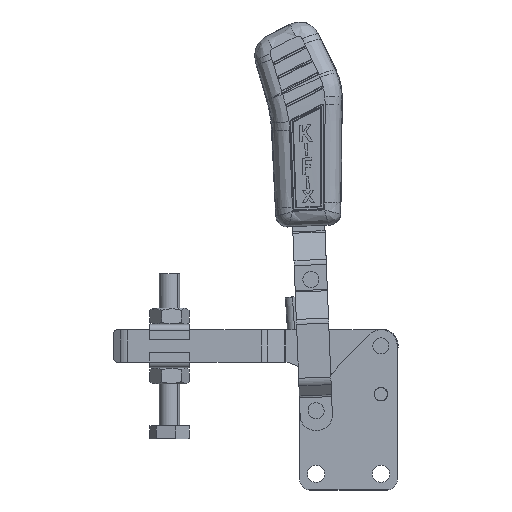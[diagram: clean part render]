
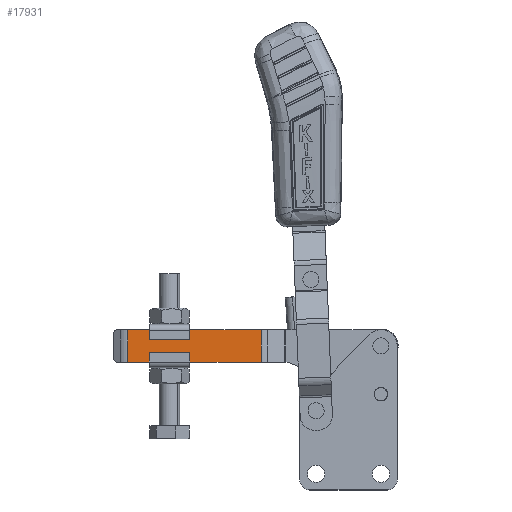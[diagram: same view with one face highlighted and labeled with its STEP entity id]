
A CAD part, top view. The second image highlights one B-rep face of the part: STEP entity #17931.
In plain terms, the highlighted planar face has unit normal (0, 0, 1) as drawn and (1, 0, 0) by its records, which use the part's own axes.
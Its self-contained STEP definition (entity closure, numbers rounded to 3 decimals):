
#469 = CARTESIAN_POINT ( 'NONE',  ( 6.906, 70.193, 8. ) ) ;
#1363 = CARTESIAN_POINT ( 'NONE',  ( 6.906, 70.7, 8. ) ) ;
#1669 = VECTOR ( 'NONE', #10488, 1000. ) ;
#3262 = ORIENTED_EDGE ( 'NONE', *, *, #16519, .T. ) ;
#3664 = VERTEX_POINT ( 'NONE', #12201 ) ;
#3948 = VERTEX_POINT ( 'NONE', #25110 ) ;
#5905 = DIRECTION ( 'NONE',  ( 0., -1., 0. ) ) ;
#6041 = LINE ( 'NONE', #20010, #15976 ) ;
#6409 = AXIS2_PLACEMENT_3D ( 'NONE', #1363, #19248, #7343 ) ;
#7208 = EDGE_CURVE ( 'NONE', #12737, #3664, #8165, .T. ) ;
#7231 = EDGE_CURVE ( 'NONE', #20572, #12737, #18101, .T. ) ;
#7343 = DIRECTION ( 'NONE',  ( 0., 1., 0. ) ) ;
#8165 = LINE ( 'NONE', #11795, #23396 ) ;
#8465 = CARTESIAN_POINT ( 'NONE',  ( 6.906, 4.423, 8. ) ) ;
#9739 = EDGE_LOOP ( 'NONE', ( #20441, #19791, #24343, #3262 ) ) ;
#9877 = DIRECTION ( 'NONE',  ( 0., 0., -1. ) ) ;
#10488 = DIRECTION ( 'NONE',  ( 0., 0., -1. ) ) ;
#11795 = CARTESIAN_POINT ( 'NONE',  ( 6.906, 70.7, -8. ) ) ;
#12201 = CARTESIAN_POINT ( 'NONE',  ( 6.906, 4.423, -8. ) ) ;
#12737 = VERTEX_POINT ( 'NONE', #21734 ) ;
#15520 = EDGE_CURVE ( 'NONE', #20572, #3948, #6041, .T. ) ;
#15976 = VECTOR ( 'NONE', #5905, 1000. ) ;
#16519 = EDGE_CURVE ( 'NONE', #3948, #3664, #22176, .T. ) ;
#17430 = FACE_OUTER_BOUND ( 'NONE', #9739, .T. ) ;
#17931 = ADVANCED_FACE ( 'NONE', ( #17430 ), #23073, .T. ) ;
#18101 = LINE ( 'NONE', #19794, #22784 ) ;
#19248 = DIRECTION ( 'NONE',  ( 1., 0., 0. ) ) ;
#19791 = ORIENTED_EDGE ( 'NONE', *, *, #7231, .F. ) ;
#19794 = CARTESIAN_POINT ( 'NONE',  ( 6.906, 70.193, 8. ) ) ;
#20010 = CARTESIAN_POINT ( 'NONE',  ( 6.906, 70.7, 8. ) ) ;
#20441 = ORIENTED_EDGE ( 'NONE', *, *, #7208, .F. ) ;
#20572 = VERTEX_POINT ( 'NONE', #469 ) ;
#21734 = CARTESIAN_POINT ( 'NONE',  ( 6.906, 70.193, -8. ) ) ;
#22176 = LINE ( 'NONE', #8465, #1669 ) ;
#22784 = VECTOR ( 'NONE', #9877, 1000. ) ;
#23073 = PLANE ( 'NONE',  #6409 ) ;
#23396 = VECTOR ( 'NONE', #25671, 1000. ) ;
#24343 = ORIENTED_EDGE ( 'NONE', *, *, #15520, .T. ) ;
#25110 = CARTESIAN_POINT ( 'NONE',  ( 6.906, 4.423, 8. ) ) ;
#25671 = DIRECTION ( 'NONE',  ( 0., -1., 0. ) ) ;
